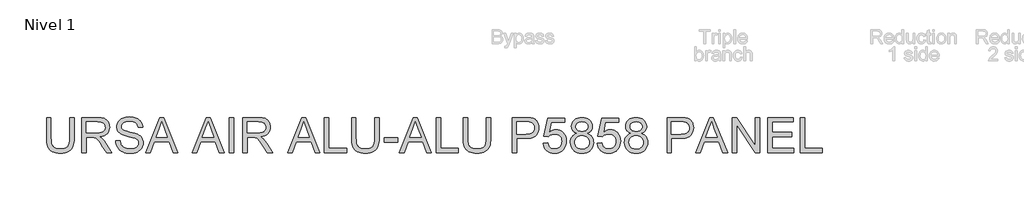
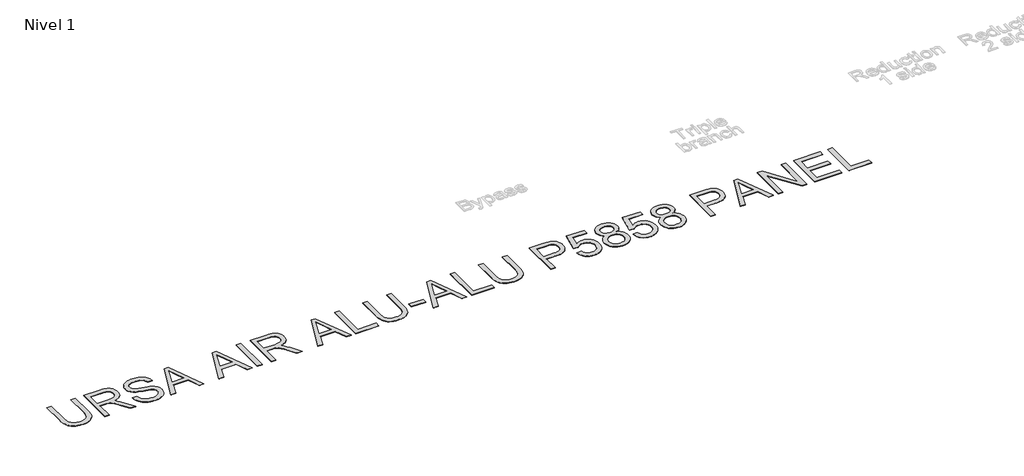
# One storey, part 3 of 7: 1 proxy.
"""IFC4 building model written with IfcOpenShell, lengths in millimetres."""

from ifc_helpers import new_model, si_unit, origin, origin_with_axes, place, context, project, spatial, polyline, outline, extrude, element, save

model = new_model("IFC4")

# Units and contexts
model_context = context("Model", 3, world=origin())
ifc_project = project(units=[si_unit("LENGTHUNIT", "METRE", prefix="MILLI")], contexts=[model_context])

# Site, building, storey
site = spatial("IfcSite", under=ifc_project)
building = spatial("IfcBuilding", under=site)
storey = spatial("IfcBuildingStorey", under=building, Name="Nivel 1", Elevation=0.0)

# Proxy
placement = place(None, origin())
element("IfcBuildingElementProxy", 1, Name="Texto de modelo 2", ObjectType="Texto de modelo 2", at=placement, inside=storey, context=model_context, shape_type="SweptSolid", body=[
    extrude(outline(polyline([(-18420.4561422, -6411.7617022), (-18294.8857545, -6411.7617022), (-18294.8857545, -6991.2984719), (-18297.0164044, -7063.0584536), (-18303.4083541, -7127.0162713), (-18314.0616035, -7183.171925), (-18328.9761527, -7231.5254148), (-18349.4395887, -7273.9084863), (-18376.7394984, -7312.1528854), (-18410.8758819, -7346.258612), (-18451.8487391, -7376.2256662), (-18499.7040553, -7400.6361694), (-18554.4878158, -7418.0722432), (-18616.2000205, -7428.5338874), (-18684.8406694, -7432.0211022), (-18751.7875283, -7428.9860757), (-18812.3424376, -7419.8809963), (-18866.5053971, -7404.705864), (-18914.2764071, -7383.4606788), (-18955.6631315, -7356.4596732), (-18990.6732347, -7324.0170797), (-19019.3067167, -7286.1328984), (-19041.5635774, -7242.8071293), (-19058.2485587, -7192.5529159), (-19070.1664025, -7133.8834019), (-19077.3171088, -7066.7985872), (-19079.7006776, -6991.2984719), (-19079.7006776, -6411.7617022), (-18954.1302899, -6411.7617022), (-18954.1302899, -6986.883888), (-18952.5821198, -7047.5920814), (-18947.9376096, -7099.73169), (-18940.1967593, -7143.3027138), (-18929.3595689, -7178.3051528), (-18914.751588, -7207.2681957), (-18895.6983663, -7232.7210313), (-18872.1999039, -7254.6636594), (-18844.2562006, -7273.0960802), (-18812.4037512, -7287.6887327), (-18777.1790502, -7298.1120559), (-18738.5820975, -7304.3660498), (-18696.6128932, -7306.4507145), (-18627.4050929, -7302.3273704), (-18568.8965273, -7289.9573384), (-18521.0871963, -7269.3406182), (-18501.1947438, -7255.9397501), (-18483.9771, -7240.47721), (-18469.0893755, -7222.0831102), (-18456.186681, -7199.8875632), (-18436.3363817, -7144.0921273), (-18424.4262021, -7073.0909022), (-18420.4561422, -6986.883888), (-18420.4561422, -6411.7617022)])), origin_with_axes(), (0.0, 0.0, 1.0), 10.0),
    extrude(outline(polyline([(-18075.1375761, -7416.3248037), (-18075.1375761, -6411.7617022), (-17642.2630951, -6411.7617022), (-17580.1293589, -6413.4554922), (-17525.9204141, -6418.5368623), (-17479.6362606, -6427.0058124), (-17441.2768984, -6438.8623425), (-17408.6120429, -6455.0184935), (-17379.4114095, -6476.386306), (-17353.6749983, -6502.9657802), (-17331.4028091, -6534.7569159), (-17313.4302408, -6570.0505948), (-17300.592692, -6607.1376985), (-17292.8901628, -6646.0182268), (-17290.322653, -6686.6921799), (-17294.5762886, -6738.2876298), (-17307.3371953, -6785.6524366), (-17328.6053731, -6828.7866006), (-17358.3808221, -6867.6901216), (-17397.0467527, -6901.1213979), (-17444.9863752, -6927.8388278), (-17502.1996896, -6947.8424113), (-17568.686696, -6961.1321483), (-17527.2999716, -6988.171475), (-17497.317589, -7014.8429196), (-17445.8754233, -7075.8500172), (-17395.5369036, -7144.0921273), (-17228.0279685, -7416.3248037), (-17373.9544933, -7416.3248037), (-17504.6752289, -7208.1035944), (-17556.9757859, -7128.6410835), (-17599.0982743, -7070.2704736), (-17634.200348, -7030.0793656), (-17665.4396608, -7005.1553604), (-17695.0235045, -6990.5320511), (-17725.1591713, -6981.2430307), (-17797.9998064, -6976.8284468), (-17949.5671884, -6976.8284468), (-17949.5671884, -7416.3248037), (-18075.1375761, -7416.3248037)]), holes=[polyline([(-17949.5671884, -6851.2580591), (-17668.5053441, -6851.2580591), (-17587.785903, -6846.8128183), (-17525.1539933, -6833.477096), (-17499.969405, -6823.2530422), (-17478.0037842, -6810.361844), (-17459.2571309, -6794.8035013), (-17443.729445, -6776.5780141), (-17431.5510181, -6756.5820948), (-17422.8521418, -6735.7124558), (-17417.632816, -6713.969097), (-17415.8930407, -6691.3520185), (-17419.2116429, -6659.238986), (-17429.1674494, -6630.0996663), (-17445.7604602, -6603.9340594), (-17468.9906753, -6580.7421653), (-17499.3945894, -6561.7502573), (-17537.5086969, -6548.1846087), (-17583.332998, -6540.0452196), (-17636.8674925, -6537.3320899), (-17949.5671884, -6537.3320899), (-17949.5671884, -6851.2580591)])]), origin_with_axes(), (0.0, 0.0, 1.0), 10.0),
    extrude(outline(polyline([(-17117.6633699, -7071.0062376), (-16992.0929823, -7071.0062376), (-16986.3448261, -7107.5568466), (-16977.6842708, -7140.6892188), (-16966.1113164, -7170.4033541), (-16951.6259628, -7196.6992526), (-16933.4924461, -7220.1057445), (-16910.9750023, -7241.1516603), (-16884.0736314, -7259.837), (-16852.7883334, -7276.1617635), (-16818.2687395, -7289.4131796), (-16781.664481, -7298.8784767), (-16742.9755579, -7304.557655), (-16702.2019701, -7306.4507145), (-16632.2430773, -7300.7178867), (-16600.5285836, -7293.551852), (-16570.9907251, -7283.5194034), (-16544.3576015, -7270.9807588), (-16521.3573126, -7256.2961358), (-16501.9898584, -7239.4655345), (-16486.2552389, -7220.4889549), (-16474.076812, -7200.1864673), (-16465.3779357, -7179.378142), (-16460.1586099, -7158.0639789), (-16458.4188346, -7136.243978), (-16463.6304962, -7094.2134601), (-16479.265481, -7057.8851131), (-16492.4172623, -7041.7672831), (-16511.0259599, -7026.891055), (-16535.0915738, -7013.2564285), (-16564.6141039, -7000.8634038), (-16630.9248335, -6981.1510602), (-16747.4514555, -6952.9161171), (-16867.4729564, -6921.186295), (-16911.2739064, -6905.8961996), (-16944.2683229, -6890.9893146), (-16977.7992339, -6870.9857311), (-17006.7776052, -6848.7441988), (-17031.2034369, -6824.2647177), (-17051.0767288, -6797.5472878), (-17066.4741232, -6768.8678206), (-17077.472262, -6738.5022276), (-17084.0711453, -6706.4505088), (-17086.270773, -6672.7126641), (-17083.5499791, -6635.3189921), (-17075.3875973, -6599.1669219), (-17061.7836277, -6564.2564534), (-17042.7380703, -6530.5875866), (-17018.4655228, -6499.5322149), (-16989.1805831, -6472.4622314), (-16954.8832513, -6449.3776362), (-16915.5735273, -6430.2784293), (-16872.5773191, -6415.3102306), (-16827.2205348, -6404.6186601), (-16779.5031743, -6398.2037178), (-16729.4252377, -6396.0654037), (-16674.7947614, -6398.3033525), (-16623.4752231, -6405.017199), (-16575.4666227, -6416.206943), (-16530.7689603, -6431.8725846), (-16490.2099703, -6451.8761681), (-16454.6173873, -6476.0797377), (-16423.9912112, -6504.4832934), (-16398.331442, -6537.0868352), (-16377.8373492, -6572.9400013), (-16362.7082022, -6611.0924299), (-16352.9440009, -6651.544121), (-16348.5447454, -6694.2950745), (-16474.1151331, -6694.2950745), (-16482.5151053, -6654.2265939), (-16497.1690714, -6619.3697748), (-16518.0770315, -6589.7246174), (-16545.2389855, -6565.2911215), (-16579.1607711, -6546.1919146), (-16620.3482261, -6532.5496239), (-16668.8013506, -6524.3642496), (-16724.5201444, -6521.6357914), (-16782.0170346, -6524.3335927), (-16831.1446094, -6532.4269966), (-16871.9028688, -6545.9160031), (-16904.2918127, -6564.8006122), (-16928.9705633, -6587.501997), (-16946.5982422, -6612.4413306), (-16957.1748496, -6639.618613), (-16960.7003853, -6669.0338442), (-16958.2018535, -6694.3410597), (-16950.7062578, -6717.2876992), (-16938.2135984, -6737.8737625), (-16920.7238752, -6756.0992497), (-16893.1940392, -6773.3590466), (-16849.8452775, -6790.8027846), (-16790.6775899, -6808.4304635), (-16715.6909766, -6826.2420834), (-16577.244719, -6859.903286), (-16528.5310115, -6875.1244035), (-16493.4902515, -6889.2725319), (-16454.9929335, -6910.7169866), (-16421.9065466, -6934.8285857), (-16394.2310906, -6961.6073292), (-16371.9665657, -6991.0532173), (-16354.8523887, -7023.0129656), (-16342.6279766, -7057.3332901), (-16335.2933293, -7094.0141907), (-16332.8484469, -7133.0556674), (-16335.6612113, -7172.3347346), (-16344.0995046, -7210.4641706), (-16358.1633267, -7247.4439753), (-16377.8526776, -7283.2741488), (-16402.8226681, -7316.5674693), (-16432.7284086, -7345.9367153), (-16467.5698992, -7371.3818866), (-16507.3471399, -7392.9029833), (-16550.9028353, -7410.0171603), (-16597.0796899, -7422.2415725), (-16645.8777038, -7429.5762197), (-16697.2968768, -7432.0211022), (-16761.530606, -7429.3846145), (-16820.3227473, -7421.4751516), (-16873.6733009, -7408.2927135), (-16921.5822665, -7389.8373), (-16964.3408842, -7366.0782545), (-17002.240394, -7336.9849201), (-17035.2807957, -7302.5572967), (-17063.4620893, -7262.7953844), (-17086.1634741, -7218.9867701), (-17102.7641491, -7172.4190409), (-17113.2641144, -7123.0921967), (-17117.6633699, -7071.0062376)])), origin_with_axes(), (0.0, 0.0, 1.0), 10.0),
    extrude(outline(polyline([(-16261.4793398, -7416.3248037), (-15860.4879651, -6411.7617022), (-15753.5569318, -6411.7617022), (-15352.5655571, -7416.3248037), (-15485.24833, -7416.3248037), (-15600.2727672, -7102.3988345), (-16014.0173844, -7102.3988345), (-16128.7965669, -7416.3248037), (-16261.4793398, -7416.3248037)]), holes=[polyline([(-15967.9095077, -6976.8284468), (-15646.1353892, -6976.8284468), (-15736.6343601, -6729.8570007), (-15807.0224485, -6537.3320899), (-15869.5623876, -6708.2745903), (-15967.9095077, -6976.8284468)])]), origin_with_axes(), (0.0, 0.0, 1.0), 10.0),
    extrude(outline(polyline([(-14942.9902691, -7416.3248037), (-14541.9988944, -6411.7617022), (-14435.0678611, -6411.7617022), (-14034.0764864, -7416.3248037), (-14166.7592593, -7416.3248037), (-14281.7836965, -7102.3988345), (-14695.5283137, -7102.3988345), (-14810.3074962, -7416.3248037), (-14942.9902691, -7416.3248037)]), holes=[polyline([(-14649.420437, -6976.8284468), (-14327.6463185, -6976.8284468), (-14418.1452893, -6729.8570007), (-14488.5333778, -6537.3320899), (-14551.0733169, -6708.2745903), (-14649.420437, -6976.8284468)])]), origin_with_axes(), (0.0, 0.0, 1.0), 10.0),
    extrude(outline(polyline([(-13884.225887, -7416.3248037), (-13884.225887, -6411.7617022), (-13758.6554993, -6411.7617022), (-13758.6554993, -7416.3248037), (-13884.225887, -7416.3248037)])), origin_with_axes(), (0.0, 0.0, 1.0), 10.0),
    extrude(outline(polyline([(-13507.5147239, -7416.3248037), (-13507.5147239, -6411.7617022), (-13074.640243, -6411.7617022), (-13012.5065068, -6413.4554922), (-12958.297562, -6418.5368623), (-12912.0134085, -6427.0058124), (-12873.6540463, -6438.8623425), (-12840.9891908, -6455.0184935), (-12811.7885574, -6476.386306), (-12786.0521462, -6502.9657802), (-12763.779957, -6534.7569159), (-12745.8073887, -6570.0505948), (-12732.9698399, -6607.1376985), (-12725.2673107, -6646.0182268), (-12722.6998009, -6686.6921799), (-12726.9534365, -6738.2876298), (-12739.7143432, -6785.6524366), (-12760.982521, -6828.7866006), (-12790.75797, -6867.6901216), (-12829.4239005, -6901.1213979), (-12877.363523, -6927.8388278), (-12934.5768375, -6947.8424113), (-13001.0638439, -6961.1321483), (-12959.6771195, -6988.171475), (-12929.6947369, -7014.8429196), (-12878.2525712, -7075.8500172), (-12827.9140515, -7144.0921273), (-12660.4051164, -7416.3248037), (-12806.3316411, -7416.3248037), (-12937.0523768, -7208.1035944), (-12989.3529337, -7128.6410835), (-13031.4754222, -7070.2704736), (-13066.5774959, -7030.0793656), (-13097.8168087, -7005.1553604), (-13127.4006524, -6990.5320511), (-13157.5363192, -6981.2430307), (-13230.3769542, -6976.8284468), (-13381.9443363, -6976.8284468), (-13381.9443363, -7416.3248037), (-13507.5147239, -7416.3248037)]), holes=[polyline([(-13381.9443363, -6851.2580591), (-13100.8824919, -6851.2580591), (-13020.1630508, -6846.8128183), (-12957.5311412, -6833.477096), (-12932.3465529, -6823.2530422), (-12910.3809321, -6810.361844), (-12891.6342788, -6794.8035013), (-12876.1065929, -6776.5780141), (-12863.928166, -6756.5820948), (-12855.2292897, -6735.7124558), (-12850.0099639, -6713.969097), (-12848.2701886, -6691.3520185), (-12851.5887908, -6659.238986), (-12861.5445972, -6630.0996663), (-12878.1376081, -6603.9340594), (-12901.3678232, -6580.7421653), (-12931.7717373, -6561.7502573), (-12969.8858448, -6548.1846087), (-13015.7101459, -6540.0452196), (-13069.2446404, -6537.3320899), (-13381.9443363, -6537.3320899), (-13381.9443363, -6851.2580591)])]), origin_with_axes(), (0.0, 0.0, 1.0), 10.0),
    extrude(outline(polyline([(-12227.5306354, -7416.3248037), (-11826.5392607, -6411.7617022), (-11719.6082274, -6411.7617022), (-11318.6168526, -7416.3248037), (-11451.2996256, -7416.3248037), (-11566.3240627, -7102.3988345), (-11980.06868, -7102.3988345), (-12094.8478625, -7416.3248037), (-12227.5306354, -7416.3248037)]), holes=[polyline([(-11933.9608032, -6976.8284468), (-11612.1866848, -6976.8284468), (-11702.6856556, -6729.8570007), (-11773.073744, -6537.3320899), (-11835.6136832, -6708.2745903), (-11933.9608032, -6976.8284468)])]), origin_with_axes(), (0.0, 0.0, 1.0), 10.0),
    extrude(outline(polyline([(-11184.4625517, -7416.3248037), (-11184.4625517, -6411.7617022), (-11058.892164, -6411.7617022), (-11058.892164, -7290.754416), (-10556.6106133, -7290.754416), (-10556.6106133, -7416.3248037), (-11184.4625517, -7416.3248037)])), origin_with_axes(), (0.0, 0.0, 1.0), 10.0),
    extrude(outline(polyline([(-9756.0993918, -6411.7617022), (-9630.5290041, -6411.7617022), (-9630.5290041, -6991.2984719), (-9632.659654, -7063.0584536), (-9639.0516037, -7127.0162713), (-9649.7048531, -7183.171925), (-9664.6194023, -7231.5254148), (-9685.0828383, -7273.9084863), (-9712.382748, -7312.1528854), (-9746.5191315, -7346.258612), (-9787.4919887, -7376.2256662), (-9835.3473049, -7400.6361694), (-9890.1310654, -7418.0722432), (-9951.8432701, -7428.5338874), (-10020.483919, -7432.0211022), (-10087.4307779, -7428.9860757), (-10147.9856872, -7419.8809963), (-10202.1486467, -7404.705864), (-10249.9196567, -7383.4606788), (-10291.3063811, -7356.4596732), (-10326.3164843, -7324.0170797), (-10354.9499663, -7286.1328984), (-10377.206827, -7242.8071293), (-10393.8918083, -7192.5529159), (-10405.8096521, -7133.8834019), (-10412.9603584, -7066.7985872), (-10415.3439272, -6991.2984719), (-10415.3439272, -6411.7617022), (-10289.7735395, -6411.7617022), (-10289.7735395, -6986.883888), (-10288.2253694, -7047.5920814), (-10283.5808592, -7099.73169), (-10275.8400089, -7143.3027138), (-10265.0028185, -7178.3051528), (-10250.3948376, -7207.2681957), (-10231.3416159, -7232.7210313), (-10207.8431535, -7254.6636594), (-10179.8994502, -7273.0960802), (-10148.0470008, -7287.6887327), (-10112.8222998, -7298.1120559), (-10074.2253471, -7304.3660498), (-10032.2561428, -7306.4507145), (-9963.0483425, -7302.3273704), (-9904.5397769, -7289.9573384), (-9856.7304459, -7269.3406182), (-9836.8379934, -7255.9397501), (-9819.6203496, -7240.47721), (-9804.7326251, -7222.0831102), (-9791.8299306, -7199.8875632), (-9771.9796313, -7144.0921273), (-9760.0694517, -7073.0909022), (-9756.0993918, -6986.883888), (-9756.0993918, -6411.7617022)])), origin_with_axes(), (0.0, 0.0, 1.0), 10.0),
    extrude(outline(polyline([(-9489.262318, -7118.0951329), (-9489.262318, -6992.5247453), (-9096.8548564, -6992.5247453), (-9096.8548564, -7118.0951329), (-9489.262318, -7118.0951329)])), origin_with_axes(), (0.0, 0.0, 1.0), 10.0),
    extrude(outline(polyline([(-9056.8783463, -7416.3248037), (-8655.8869716, -6411.7617022), (-8548.9559383, -6411.7617022), (-8147.9645635, -7416.3248037), (-8280.6473365, -7416.3248037), (-8395.6717736, -7102.3988345), (-8809.4163909, -7102.3988345), (-8924.1955734, -7416.3248037), (-9056.8783463, -7416.3248037)]), holes=[polyline([(-8763.3085141, -6976.8284468), (-8441.5343957, -6976.8284468), (-8532.0333665, -6729.8570007), (-8602.4214549, -6537.3320899), (-8664.9613941, -6708.2745903), (-8763.3085141, -6976.8284468)])]), origin_with_axes(), (0.0, 0.0, 1.0), 10.0),
    extrude(outline(polyline([(-8013.8102626, -7416.3248037), (-8013.8102626, -6411.7617022), (-7888.239875, -6411.7617022), (-7888.239875, -7290.754416), (-7385.9583242, -7290.754416), (-7385.9583242, -7416.3248037), (-8013.8102626, -7416.3248037)])), origin_with_axes(), (0.0, 0.0, 1.0), 10.0),
    extrude(outline(polyline([(-6585.4471027, -6411.7617022), (-6459.876715, -6411.7617022), (-6459.876715, -6991.2984719), (-6462.0073649, -7063.0584536), (-6468.3993146, -7127.0162713), (-6479.052564, -7183.171925), (-6493.9671132, -7231.5254148), (-6514.4305492, -7273.9084863), (-6541.7304589, -7312.1528854), (-6575.8668424, -7346.258612), (-6616.8396996, -7376.2256662), (-6664.6950158, -7400.6361694), (-6719.4787763, -7418.0722432), (-6781.190981, -7428.5338874), (-6849.8316299, -7432.0211022), (-6916.7784888, -7428.9860757), (-6977.3333981, -7419.8809963), (-7031.4963576, -7404.705864), (-7079.2673676, -7383.4606788), (-7120.654092, -7356.4596732), (-7155.6641952, -7324.0170797), (-7184.2976772, -7286.1328984), (-7206.5545379, -7242.8071293), (-7223.2395192, -7192.5529159), (-7235.157363, -7133.8834019), (-7242.3080693, -7066.7985872), (-7244.6916381, -6991.2984719), (-7244.6916381, -6411.7617022), (-7119.1212504, -6411.7617022), (-7119.1212504, -6986.883888), (-7117.5730803, -7047.5920814), (-7112.9285701, -7099.73169), (-7105.1877198, -7143.3027138), (-7094.3505294, -7178.3051528), (-7079.7425485, -7207.2681957), (-7060.6893268, -7232.7210313), (-7037.1908644, -7254.6636594), (-7009.2471611, -7273.0960802), (-6977.3947117, -7287.6887327), (-6942.1700107, -7298.1120559), (-6903.573058, -7304.3660498), (-6861.6038537, -7306.4507145), (-6792.3960534, -7302.3273704), (-6733.8874878, -7289.9573384), (-6686.0781568, -7269.3406182), (-6666.1857043, -7255.9397501), (-6648.9680605, -7240.47721), (-6634.080336, -7222.0831102), (-6621.1776415, -7199.8875632), (-6601.3273422, -7144.0921273), (-6589.4171626, -7073.0909022), (-6585.4471027, -6986.883888), (-6585.4471027, -6411.7617022)])), origin_with_axes(), (0.0, 0.0, 1.0), 10.0),
    extrude(outline(polyline([(-5847.721075, -7416.3248037), (-5847.721075, -6411.7617022), (-5475.4244959, -6411.7617022), (-5388.7269724, -6414.1529352), (-5325.3286419, -6421.3266341), (-5290.3875166, -6428.8605508), (-5258.4047756, -6439.1995677), (-5229.380419, -6452.3436848), (-5203.3144468, -6468.2929021), (-5179.9309475, -6487.3767806), (-5158.9540096, -6509.9248812), (-5140.383633, -6535.937204), (-5124.2198179, -6565.4137489), (-5111.1293502, -6597.3811614), (-5101.7790162, -6630.8660872), (-5096.1688157, -6665.8685262), (-5094.2987489, -6702.3884784), (-5099.3494621, -6764.0546978), (-5114.5016018, -6820.7851672), (-5139.7551679, -6872.5798864), (-5175.1101605, -6919.4388555), (-5197.3459447, -6940.2471809), (-5223.6475913, -6958.2810629), (-5254.0151003, -6973.5405015), (-5288.4484719, -6986.0254967), (-5326.9477059, -6995.7360485), (-5369.5128024, -7002.672157), (-5466.8405827, -7008.2210437), (-5722.1506874, -7008.2210437), (-5722.1506874, -7416.3248037), (-5847.721075, -7416.3248037)]), holes=[polyline([(-5722.1506874, -6882.650656), (-5459.4829428, -6882.650656), (-5399.0889819, -6879.7689137), (-5348.1373256, -6871.1236868), (-5306.6279738, -6856.7149754), (-5274.5609266, -6836.5427793), (-5250.6332685, -6811.1435932), (-5233.5420841, -6781.0539117), (-5223.2873735, -6746.2737347), (-5219.8691366, -6706.8030623), (-5221.8848234, -6677.49513), (-5227.9318837, -6650.3944897), (-5238.0103175, -6625.5011414), (-5252.1201248, -6602.815085), (-5269.5102133, -6583.0720846), (-5289.4294905, -6567.0079042), (-5311.8779564, -6554.6225437), (-5336.8556111, -6545.9160031), (-5385.2934071, -6539.4780682), (-5462.4259988, -6537.3320899), (-5722.1506874, -6537.3320899), (-5722.1506874, -6882.650656)])]), origin_with_axes(), (0.0, 0.0, 1.0), 10.0),
    extrude(outline(polyline([(-4968.7283612, -7149.4877299), (-4843.1579735, -7133.7914314), (-4833.7769827, -7174.1588162), (-4820.1040352, -7209.1765836), (-4802.1391311, -7238.8447336), (-4779.8822704, -7263.1632664), (-4753.3794383, -7282.1015249), (-4722.6766201, -7295.6288524), (-4687.7738158, -7303.745249), (-4648.6710254, -7306.4507145), (-4600.8463661, -7302.6875882), (-4558.6625639, -7291.3982095), (-4522.1196191, -7272.5825783), (-4491.2175315, -7246.2406946), (-4466.6460799, -7213.6754738), (-4449.095043, -7176.1898313), (-4438.5644209, -7133.7837672), (-4435.0542136, -7086.4572814), (-4438.3421589, -7041.7289621), (-4448.2059949, -7001.9670498), (-4464.6457215, -6967.1715444), (-4487.6613389, -6937.342446), (-4517.3294889, -6913.4147879), (-4553.7268138, -6896.3236035), (-4596.8533136, -6886.0688929), (-4646.7089881, -6882.650656), (-4707.6241152, -6888.1075723), (-4733.7360726, -6894.9287176), (-4756.9509593, -6904.4783211), (-4796.3449897, -6929.5556104), (-4827.4616751, -6961.1321483), (-4953.0320628, -6945.4358499), (-4843.1579735, -6427.4580007), (-4356.5727213, -6427.4580007), (-4356.5727213, -6553.0283883), (-4741.6225429, -6553.0283883), (-4795.3333142, -6829.6756487), (-4751.0188622, -6797.9151698), (-4705.631421, -6775.2291134), (-4659.1709907, -6761.6174796), (-4611.6375712, -6757.0802683), (-4550.4848538, -6762.7057972), (-4494.3138716, -6779.5823837), (-4443.1246248, -6807.7100279), (-4396.9171134, -6847.0887298), (-4358.6650501, -6895.311928), (-4331.3421478, -6949.9730611), (-4314.9484063, -7011.0721292), (-4309.4838259, -7078.6091321), (-4314.4042476, -7143.6629316), (-4329.1655126, -7204.1795198), (-4353.767621, -7260.1588967), (-4388.2105728, -7311.6010624), (-4413.2112201, -7339.8245092), (-4440.3885025, -7364.2848298), (-4469.74242, -7384.9820241), (-4501.2729727, -7401.9160922), (-4534.9801605, -7415.0870341), (-4570.8639834, -7424.4948497), (-4608.9244415, -7430.139539), (-4649.1615348, -7432.0211022), (-4713.9624154, -7427.1849868), (-4772.4939736, -7412.6766406), (-4824.7562096, -7388.4960636), (-4870.7491232, -7354.6432558), (-4909.0165149, -7312.8043431), (-4938.1021851, -7264.6654512), (-4958.0061339, -7210.2265801), (-4968.7283612, -7149.4877299)])), origin_with_axes(), (0.0, 0.0, 1.0), 10.0),
    extrude(outline(polyline([(-4016.6497577, -6863.0302829), (-4052.7711711, -6847.9471211), (-4083.8801923, -6829.9209034), (-4109.9768214, -6808.9516297), (-4131.0610582, -6785.0393), (-4147.3168439, -6758.4138406), (-4158.9281193, -6729.3051777), (-4165.8948846, -6697.7133114), (-4168.2171397, -6663.6382416), (-4163.1587623, -6612.4260022), (-4147.98363, -6565.4750625), (-4122.6917428, -6522.7854227), (-4087.2831008, -6484.3570826), (-4043.4591581, -6452.5966037), (-3992.921369, -6429.9105473), (-3935.6697335, -6416.2989135), (-3871.7042516, -6411.7617022), (-3807.4322014, -6416.4062124), (-3749.7513702, -6430.339743), (-3698.6617581, -6453.5622939), (-3654.1633651, -6486.0738652), (-3618.1109296, -6525.2532977), (-3592.3591899, -6568.4794321), (-3576.9081461, -6615.7522685), (-3571.7577982, -6667.0718069), (-3574.0493965, -6699.943596), (-3580.9241913, -6730.6234215), (-3592.3821826, -6759.1112835), (-3608.4233704, -6785.407182), (-3629.1243968, -6809.1585633), (-3654.561904, -6830.0128739), (-3684.7358918, -6847.9701138), (-3719.6463603, -6863.0302829), (-3678.3745989, -6880.588984), (-3642.3604845, -6902.8535089), (-3611.6040168, -6929.8238577), (-3586.105196, -6961.5000303), (-3566.0939483, -6997.1769196), (-3551.8002, -7036.1494185), (-3543.223951, -7078.4175269), (-3540.3652013, -7123.9812449), (-3546.0367154, -7186.6131545), (-3563.0512577, -7244.0334026), (-3591.4088281, -7296.2419891), (-3631.1094268, -7343.238914), (-3654.6921955, -7364.0472393), (-3680.068389, -7382.0811213), (-3707.2380071, -7397.3405599), (-3736.2010501, -7409.8255551), (-3799.5074101, -7426.4722154), (-3869.987469, -7432.0211022), (-3940.4675279, -7426.4492228), (-4003.7738879, -7409.7335846), (-4032.7369308, -7397.196856), (-4059.906549, -7381.8741877), (-4085.2827424, -7363.7655797), (-4108.8655112, -7342.871032), (-4148.5661098, -7295.5445462), (-4176.9236803, -7242.7151588), (-4193.9382226, -7184.3828699), (-4199.6097366, -7120.5476796), (-4196.6360239, -7072.9069612), (-4187.7148855, -7029.3129448), (-4172.8463215, -6989.7656303), (-4152.0303319, -6954.2650178), (-4125.7267693, -6923.4549007), (-4094.395486, -6897.9790725), (-4058.0364822, -6877.8375333), (-4016.6497577, -6863.0302829)]), holes=[polyline([(-4042.646752, -6667.3170615), (-4039.8646444, -6696.1038276), (-4031.5183217, -6722.1314788), (-4017.6077837, -6745.400015), (-3998.1330306, -6765.9094362), (-3973.339317, -6782.648067), (-3943.4718975, -6794.6042318), (-3908.5307722, -6801.7779308), (-3868.515941, -6804.1691637), (-3829.4897927, -6801.7932592), (-3795.3074239, -6794.6655455), (-3765.9688348, -6782.7860228), (-3741.4740253, -6766.1546909), (-3722.1602206, -6746.0744653), (-3708.3646458, -6723.8482614), (-3700.0873009, -6699.4760793), (-3697.3281859, -6672.9579188), (-3700.1792714, -6645.4050902), (-3708.7325277, -6620.1361956), (-3722.9879551, -6597.1512351), (-3742.9455533, -6576.4502087), (-3767.9921858, -6559.3360317), (-3797.5147159, -6547.1116196), (-3831.5131436, -6539.7769723), (-3869.987469, -6537.3320899), (-3908.7606984, -6539.7233229), (-3942.9200745, -6546.8970218), (-3972.4655972, -6558.8531866), (-3997.3972666, -6575.5918174), (-4017.1939165, -6595.672043), (-4031.3343807, -6617.6529922), (-4039.8186592, -6641.534665), (-4042.646752, -6667.3170615)]), polyline([(-4074.039349, -7116.1330956), (-4068.7970305, -7164.1723528), (-4053.0700752, -7210.6787684), (-4040.5697516, -7232.2535146), (-4024.0380544, -7251.2377584), (-4003.4749838, -7267.6314998), (-3978.8805395, -7281.4347388), (-3924.8018862, -7300.1967206), (-3869.0064503, -7306.4507145), (-3823.6036807, -7303.1627691), (-3783.5352001, -7293.2989331), (-3748.8010084, -7276.8592065), (-3719.4011056, -7253.8435892), (-3696.0099421, -7225.754266), (-3679.3019681, -7194.0934218), (-3669.2771838, -7158.8610565), (-3665.935589, -7120.0571702), (-3669.3844827, -7080.6324831), (-3679.7311638, -7044.7639886), (-3696.9756323, -7012.4516867), (-3721.1178883, -6983.6955774), (-3751.3148687, -6960.089816), (-3786.7235107, -6943.2285579), (-3827.3438144, -6933.111803), (-3873.1757796, -6929.7395514), (-3917.911763, -6933.0658178), (-3957.4514133, -6943.0446169), (-3991.7947304, -6959.6759488), (-4020.9417143, -6982.9598134), (-4044.1719295, -7011.2407418), (-4060.7649403, -7042.8632649), (-4070.7207468, -7077.8273829), (-4074.039349, -7116.1330956)])]), origin_with_axes(), (0.0, 0.0, 1.0), 10.0),
    extrude(outline(polyline([(-3430.4911121, -7149.4877299), (-3304.9207244, -7133.7914314), (-3295.5397335, -7174.1588162), (-3281.866786, -7209.1765836), (-3263.9018819, -7238.8447336), (-3241.6450212, -7263.1632664), (-3215.1421891, -7282.1015249), (-3184.439371, -7295.6288524), (-3149.5365667, -7303.745249), (-3110.4337763, -7306.4507145), (-3062.6091169, -7302.6875882), (-3020.4253148, -7291.3982095), (-2983.8823699, -7272.5825783), (-2952.9802823, -7246.2406946), (-2928.4088307, -7213.6754738), (-2910.8577939, -7176.1898313), (-2900.3271718, -7133.7837672), (-2896.8169644, -7086.4572814), (-2900.1049097, -7041.7289621), (-2909.9687457, -7001.9670498), (-2926.4084724, -6967.1715444), (-2949.4240897, -6937.342446), (-2979.0922398, -6913.4147879), (-3015.4895647, -6896.3236035), (-3058.6160644, -6886.0688929), (-3108.471739, -6882.650656), (-3169.386866, -6888.1075723), (-3195.4988234, -6894.9287176), (-3218.7137102, -6904.4783211), (-3258.1077405, -6929.5556104), (-3289.2244259, -6961.1321483), (-3414.7948136, -6945.4358499), (-3304.9207244, -6427.4580007), (-2818.3354721, -6427.4580007), (-2818.3354721, -6553.0283883), (-3203.3852937, -6553.0283883), (-3257.096065, -6829.6756487), (-3212.781613, -6797.9151698), (-3167.3941718, -6775.2291134), (-3120.9337415, -6761.6174796), (-3073.4003221, -6757.0802683), (-3012.2476046, -6762.7057972), (-2956.0766225, -6779.5823837), (-2904.8873757, -6807.7100279), (-2858.6798642, -6847.0887298), (-2820.4278009, -6895.311928), (-2793.1048986, -6949.9730611), (-2776.7111572, -7011.0721292), (-2771.2465767, -7078.6091321), (-2776.1669984, -7143.6629316), (-2790.9282634, -7204.1795198), (-2815.5303719, -7260.1588967), (-2849.9733237, -7311.6010624), (-2874.9739709, -7339.8245092), (-2902.1512533, -7364.2848298), (-2931.5051709, -7384.9820241), (-2963.0357235, -7401.9160922), (-2996.7429113, -7415.0870341), (-3032.6267343, -7424.4948497), (-3070.6871924, -7430.139539), (-3110.9242856, -7432.0211022), (-3175.7251662, -7427.1849868), (-3234.2567245, -7412.6766406), (-3286.5189604, -7388.4960636), (-3332.511874, -7354.6432558), (-3370.7792657, -7312.8043431), (-3399.864936, -7264.6654512), (-3419.7688847, -7210.2265801), (-3430.4911121, -7149.4877299)])), origin_with_axes(), (0.0, 0.0, 1.0), 10.0),
    extrude(outline(polyline([(-2478.4125085, -6863.0302829), (-2514.5339219, -6847.9471211), (-2545.6429432, -6829.9209034), (-2571.7395722, -6808.9516297), (-2592.823809, -6785.0393), (-2609.0795947, -6758.4138406), (-2620.6908702, -6729.3051777), (-2627.6576355, -6697.7133114), (-2629.9798906, -6663.6382416), (-2624.9215131, -6612.4260022), (-2609.7463808, -6565.4750625), (-2584.4544937, -6522.7854227), (-2549.0458516, -6484.3570826), (-2505.2219089, -6452.5966037), (-2454.6841199, -6429.9105473), (-2397.4324844, -6416.2989135), (-2333.4670024, -6411.7617022), (-2269.1949522, -6416.4062124), (-2211.514121, -6430.339743), (-2160.424509, -6453.5622939), (-2115.926116, -6486.0738652), (-2079.8736804, -6525.2532977), (-2054.1219408, -6568.4794321), (-2038.670897, -6615.7522685), (-2033.520549, -6667.0718069), (-2035.8121473, -6699.943596), (-2042.6869421, -6730.6234215), (-2054.1449334, -6759.1112835), (-2070.1861212, -6785.407182), (-2090.8871477, -6809.1585633), (-2116.3246548, -6830.0128739), (-2146.4986426, -6847.9701138), (-2181.4091111, -6863.0302829), (-2140.1373498, -6880.588984), (-2104.1232353, -6902.8535089), (-2073.3667676, -6929.8238577), (-2047.8679469, -6961.5000303), (-2027.8566992, -6997.1769196), (-2013.5629508, -7036.1494185), (-2004.9867018, -7078.4175269), (-2002.1279521, -7123.9812449), (-2007.7994662, -7186.6131545), (-2024.8140085, -7244.0334026), (-2053.171579, -7296.2419891), (-2092.8721776, -7343.238914), (-2116.4549463, -7364.0472393), (-2141.8311398, -7382.0811213), (-2169.000758, -7397.3405599), (-2197.9638009, -7409.8255551), (-2261.2701609, -7426.4722154), (-2331.7502198, -7432.0211022), (-2402.2302787, -7426.4492228), (-2465.5366387, -7409.7335846), (-2494.4996816, -7397.196856), (-2521.6692998, -7381.8741877), (-2547.0454933, -7363.7655797), (-2570.628262, -7342.871032), (-2610.3288607, -7295.5445462), (-2638.6864311, -7242.7151588), (-2655.7009734, -7184.3828699), (-2661.3724875, -7120.5476796), (-2658.3987747, -7072.9069612), (-2649.4776363, -7029.3129448), (-2634.6090723, -6989.7656303), (-2613.7930828, -6954.2650178), (-2587.4895201, -6923.4549007), (-2556.1582369, -6897.9790725), (-2519.799233, -6877.8375333), (-2478.4125085, -6863.0302829)]), holes=[polyline([(-2504.4095029, -6667.3170615), (-2501.6273953, -6696.1038276), (-2493.2810725, -6722.1314788), (-2479.3705346, -6745.400015), (-2459.8957815, -6765.9094362), (-2435.1020678, -6782.648067), (-2405.2346483, -6794.6042318), (-2370.293523, -6801.7779308), (-2330.2786918, -6804.1691637), (-2291.2525435, -6801.7932592), (-2257.0701748, -6794.6655455), (-2227.7315857, -6782.7860228), (-2203.2367762, -6766.1546909), (-2183.9229714, -6746.0744653), (-2170.1273966, -6723.8482614), (-2161.8500517, -6699.4760793), (-2159.0909367, -6672.9579188), (-2161.9420222, -6645.4050902), (-2170.4952786, -6620.1361956), (-2184.7507059, -6597.1512351), (-2204.7083041, -6576.4502087), (-2229.7549366, -6559.3360317), (-2259.2774668, -6547.1116196), (-2293.2758945, -6539.7769723), (-2331.7502198, -6537.3320899), (-2370.5234493, -6539.7233229), (-2404.6828253, -6546.8970218), (-2434.2283481, -6558.8531866), (-2459.1600175, -6575.5918174), (-2478.9566673, -6595.672043), (-2493.0971315, -6617.6529922), (-2501.58141, -6641.534665), (-2504.4095029, -6667.3170615)]), polyline([(-2535.8020998, -7116.1330956), (-2530.5597814, -7164.1723528), (-2514.8328261, -7210.6787684), (-2502.3325024, -7232.2535146), (-2485.8008053, -7251.2377584), (-2465.2377346, -7267.6314998), (-2440.6432904, -7281.4347388), (-2386.5646371, -7300.1967206), (-2330.7692011, -7306.4507145), (-2285.3664316, -7303.1627691), (-2245.2979509, -7293.2989331), (-2210.5637592, -7276.8592065), (-2181.1638564, -7253.8435892), (-2157.7726929, -7225.754266), (-2141.064719, -7194.0934218), (-2131.0399346, -7158.8610565), (-2127.6983398, -7120.0571702), (-2131.1472335, -7080.6324831), (-2141.4939146, -7044.7639886), (-2158.7383832, -7012.4516867), (-2182.8806391, -6983.6955774), (-2213.0776195, -6960.089816), (-2248.4862616, -6943.2285579), (-2289.1065652, -6933.111803), (-2334.9385304, -6929.7395514), (-2379.6745139, -6933.0658178), (-2419.2141642, -6943.0446169), (-2453.5574812, -6959.6759488), (-2482.7044652, -6982.9598134), (-2505.9346803, -7011.2407418), (-2522.5276911, -7042.8632649), (-2532.4834976, -7077.8273829), (-2535.8020998, -7116.1330956)])]), origin_with_axes(), (0.0, 0.0, 1.0), 10.0),
    extrude(outline(polyline([(-1452.757506, -7416.3248037), (-1452.757506, -6411.7617022), (-1080.4609269, -6411.7617022), (-993.7634033, -6414.1529352), (-930.3650728, -6421.3266341), (-895.4239475, -6428.8605508), (-863.4412066, -6439.1995677), (-834.41685, -6452.3436848), (-808.3508778, -6468.2929021), (-784.9673785, -6487.3767806), (-763.9904405, -6509.9248812), (-745.420064, -6535.937204), (-729.2562488, -6565.4137489), (-716.1657812, -6597.3811614), (-706.8154471, -6630.8660872), (-701.2052467, -6665.8685262), (-699.3351799, -6702.3884784), (-704.3858931, -6764.0546978), (-719.5380328, -6820.7851672), (-744.7915989, -6872.5798864), (-780.1465915, -6919.4388555), (-802.3823756, -6940.2471809), (-828.6840222, -6958.2810629), (-859.0515313, -6973.5405015), (-893.4849028, -6986.0254967), (-931.9841368, -6995.7360485), (-974.5492333, -7002.672157), (-1071.8770137, -7008.2210437), (-1327.1871183, -7008.2210437), (-1327.1871183, -7416.3248037), (-1452.757506, -7416.3248037)]), holes=[polyline([(-1327.1871183, -6882.650656), (-1064.5193738, -6882.650656), (-1004.1254129, -6879.7689137), (-953.1737565, -6871.1236868), (-911.6644048, -6856.7149754), (-879.5973575, -6836.5427793), (-855.6696994, -6811.1435932), (-838.578515, -6781.0539117), (-828.3238044, -6746.2737347), (-824.9055676, -6706.8030623), (-826.9212543, -6677.49513), (-832.9683146, -6650.3944897), (-843.0467484, -6625.5011414), (-857.1565558, -6602.815085), (-874.5466443, -6583.0720846), (-894.4659215, -6567.0079042), (-916.9143874, -6554.6225437), (-941.892042, -6545.9160031), (-990.3298381, -6539.4780682), (-1067.4624297, -6537.3320899), (-1327.1871183, -6537.3320899), (-1327.1871183, -6882.650656)])]), origin_with_axes(), (0.0, 0.0, 1.0), 10.0),
    extrude(outline(polyline([(-643.6623713, -7416.3248037), (-242.6709965, -6411.7617022), (-135.7399633, -6411.7617022), (265.2514115, -7416.3248037), (132.5686386, -7416.3248037), (17.5442014, -7102.3988345), (-396.2004158, -7102.3988345), (-510.9795983, -7416.3248037), (-643.6623713, -7416.3248037)]), holes=[polyline([(-350.0925391, -6976.8284468), (-28.3184207, -6976.8284468), (-118.8173915, -6729.8570007), (-189.2054799, -6537.3320899), (-251.7454191, -6708.2745903), (-350.0925391, -6976.8284468)])]), origin_with_axes(), (0.0, 0.0, 1.0), 10.0),
    extrude(outline(polyline([(399.4057124, -7416.3248037), (399.4057124, -6411.7617022), (533.805268, -6411.7617022), (1058.6502477, -7207.6130851), (1058.6502477, -6411.7617022), (1184.2206354, -6411.7617022), (1184.2206354, -7416.3248037), (1049.8210799, -7416.3248037), (524.9761001, -6620.2281661), (524.9761001, -7416.3248037), (399.4057124, -7416.3248037)])), origin_with_axes(), (0.0, 0.0, 1.0), 10.0),
    extrude(outline(polyline([(1403.9688139, -7416.3248037), (1403.9688139, -6411.7617022), (2125.9985431, -6411.7617022), (2125.9985431, -6537.3320899), (1529.5392016, -6537.3320899), (1529.5392016, -6835.5617606), (2094.6059462, -6835.5617606), (2094.6059462, -6961.1321483), (1529.5392016, -6961.1321483), (1529.5392016, -7290.754416), (2141.6948415, -7290.754416), (2141.6948415, -7416.3248037), (1403.9688139, -7416.3248037)])), origin_with_axes(), (0.0, 0.0, 1.0), 10.0),
    extrude(outline(polyline([(2330.0504231, -7416.3248037), (2330.0504231, -6411.7617022), (2455.6208108, -6411.7617022), (2455.6208108, -7290.754416), (2957.9023615, -7290.754416), (2957.9023615, -7416.3248037), (2330.0504231, -7416.3248037)])), origin_with_axes(), (0.0, 0.0, 1.0), 10.0),
])

save(model, "model.ifc")
